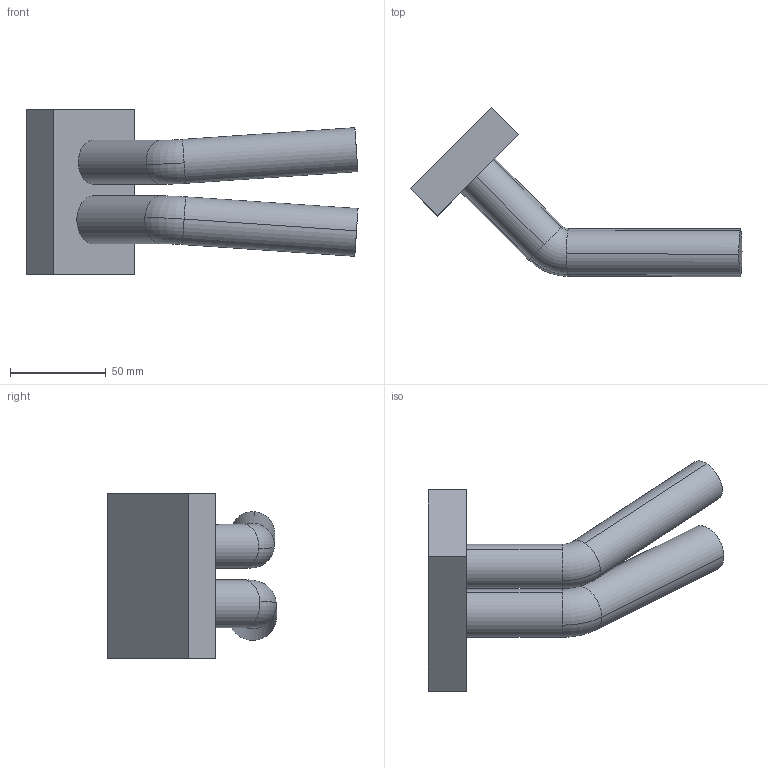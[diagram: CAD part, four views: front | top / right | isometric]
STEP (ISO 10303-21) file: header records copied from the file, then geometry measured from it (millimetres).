
FILE_DESCRIPTION(('STEP AP214'),'1');
FILE_NAME('C:/Users/mashimo/Documents/次世代エンジン/ボア６ｃｍ/TurboCAD/3D/tmp0.STEP','2025-07-11T09:10:32',(' '),(' '),'Spatial InterOp 3D',' ',' ');
FILE_SCHEMA(('automotive_design'));
Length unit declared in the file: millimetre
Products named in the file (1): 1
Bounding box: 173 x 88.24 x 86 mm (x, y, z)
Volume: 241834.4 mm3; surface area: 39225.7 mm2
Topology: 1 solids, 1 shells, 20 faces, 48 edges, 32 vertices
Faces by surface type: cylinder 8, plane 8, torus 4
Entity records: 784 total; most frequent: DIRECTION 118, CARTESIAN_POINT 101, ORIENTED_EDGE 96, AXIS2_PLACEMENT_3D 49, EDGE_CURVE 48, VERTEX_POINT 32, CIRCLE 28, EDGE_LOOP 22
